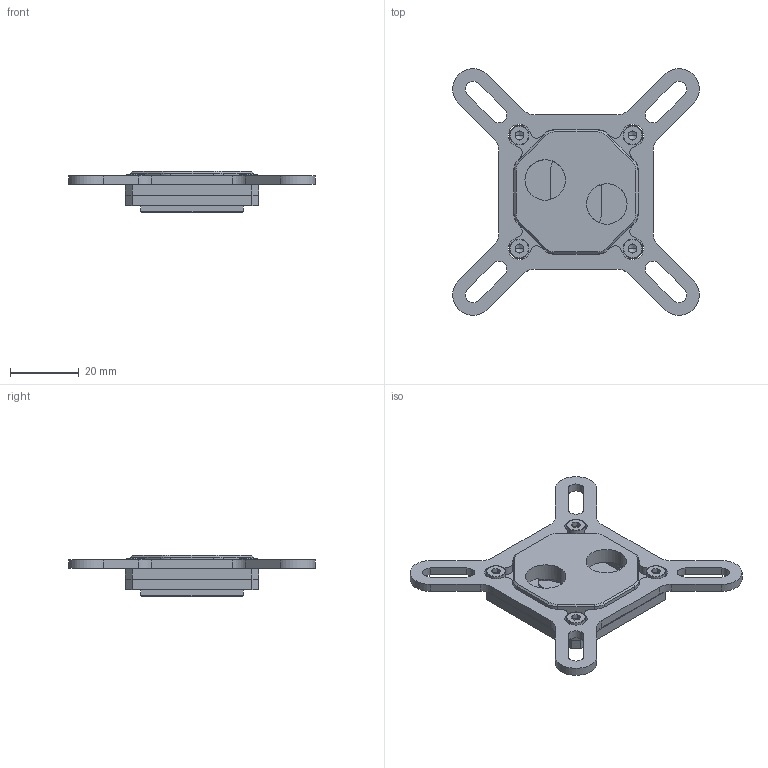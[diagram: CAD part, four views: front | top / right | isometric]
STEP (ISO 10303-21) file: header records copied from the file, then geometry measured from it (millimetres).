
FILE_DESCRIPTION(/* description */ (''),/* implementation_level */ '2;1');
FILE_NAME(/* name */ 'PLT_UN30F01_',/* time_stamp */ '2025-07-01T18:13:31+09:00',/* author */ (''),/* organization */ (''),/* preprocessor_version */ 'ST-DEVELOPER v19.2',/* originating_system */ 'Rhino 8.10',/* authorisation */ '');
FILE_SCHEMA (('CONFIG_CONTROL_DESIGN'));
Length unit declared in the file: millimetre
Products named in the file (2): Document; socket head cap screw_ks_KS 1003 - M3 x 6 x 6-N
Bounding box: 71.95 x 71.95 x 12 mm (x, y, z)
Volume: 16037.9 mm3; surface area: 13520 mm2
Topology: 7 solids, 7 shells, 365 faces, 930 edges, 584 vertices
Faces by surface type: plane 187, cylinder 130, bspline 48
Entity records: 11990 total; most frequent: CARTESIAN_POINT 4683, ORIENTED_EDGE 1716, DIRECTION 936, EDGE_CURVE 858, AXIS2_PLACEMENT_3D 616, VERTEX_POINT 547, B_SPLINE_CURVE_WITH_KNOTS 434, EDGE_LOOP 375
